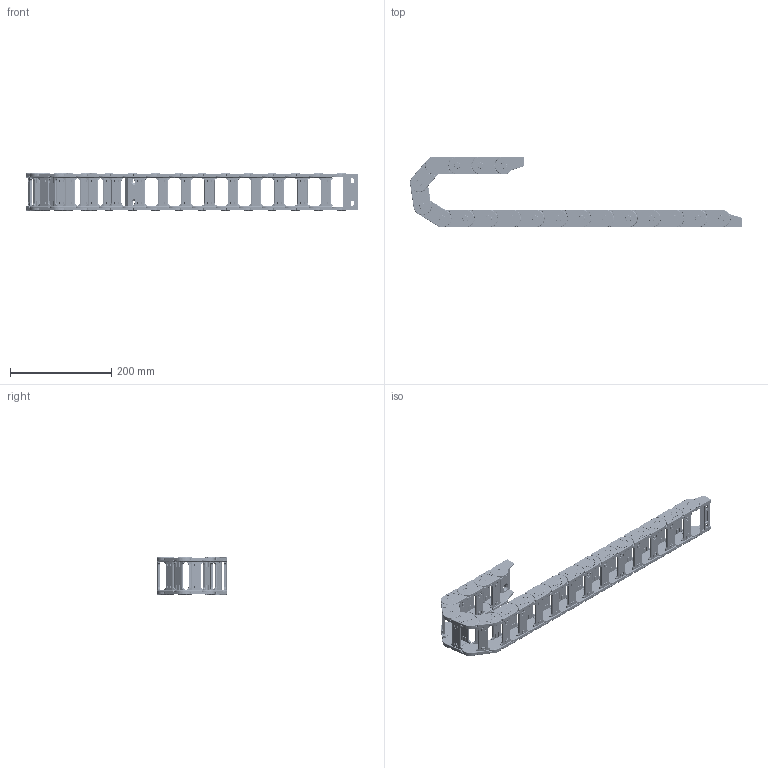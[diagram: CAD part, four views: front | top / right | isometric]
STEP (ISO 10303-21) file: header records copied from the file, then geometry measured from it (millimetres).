
FILE_DESCRIPTION (( 'STEP AP214' ), '1' );
FILE_NAME ('J25Q.2.57S-3D賦凳芞.STEP', '2019-01-09T03:25:43', ( 'Sky123.Org' ), ( 'Sky123.Org' ), 'SwSTEP 2.0', 'SolidWorks 2017', '' );
FILE_SCHEMA (( 'AUTOMOTIVE_DESIGN' ));
Length unit declared in the file: millimetre
Products named in the file (7): G25X57-XJT-WF; G25X57-XJT-NF; 5-G25X57-1; G25X57-結え-3D; G25-R55翋极2-楷俋; G25-R55翋极1-楷俋; J25Q.2.57S-3D賦凳芞
Assembly tree (24 placements, depth 3):
  J25Q.2.57S-3D賦凳芞
    5-G25X57-1  x18
      G25-R55翋极1-楷俋
      G25-R55翋极2-楷俋
      G25X57-結え-3D
    G25X57-XJT-NF
    G25X57-XJT-WF
Bounding box: 656.29 x 139.76 x 73.6 mm (x, y, z)
Volume: 692224.7 mm3; surface area: 401235.5 mm2
Topology: 74 solids, 74 shells, 16725 faces, 46043 edges, 30156 vertices
Faces by surface type: plane 9478, cylinder 3534, bspline 3360, torus 341, cone 12
Entity records: 32391 total; most frequent: CARTESIAN_POINT 11693, ORIENTED_EDGE 4468, DIRECTION 3940, EDGE_CURVE 2234, VERTEX_POINT 1441, LINE 1406, VECTOR 1406, AXIS2_PLACEMENT_3D 1267
